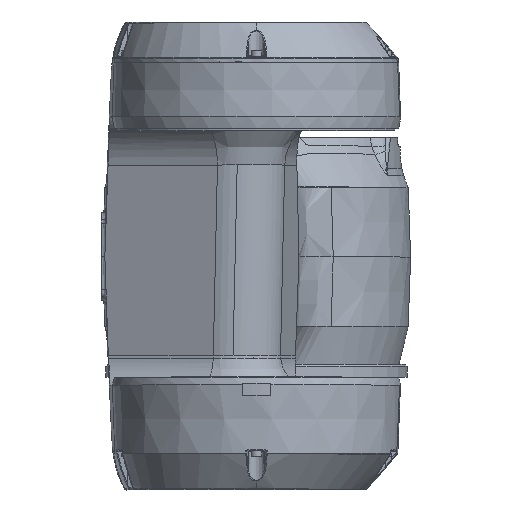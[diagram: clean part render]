
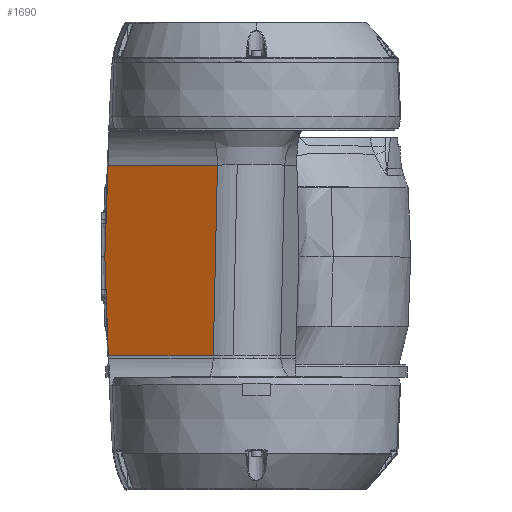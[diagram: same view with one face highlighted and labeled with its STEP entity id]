
A CAD part, top view. The second image highlights one B-rep face of the part: STEP entity #1690.
In plain terms, the highlighted planar face has unit normal (-0.397, -0.035, 0.917).
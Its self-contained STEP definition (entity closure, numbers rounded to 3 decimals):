
#1690 = ADVANCED_FACE ( 'NONE', ( #51065 ), #39456, .F. ) ;
#2576 = LINE ( 'NONE', #8709, #63505 ) ;
#3242 = CARTESIAN_POINT ( 'NONE',  ( -74.34, -50., 572.889 ) ) ;
#4536 = VERTEX_POINT ( 'NONE', #27317 ) ;
#5590 = EDGE_CURVE ( 'NONE', #62438, #45685, #24299, .T. ) ;
#8709 = CARTESIAN_POINT ( 'NONE',  ( -75.024, -50., 572.593 ) ) ;
#10102 = EDGE_CURVE ( 'NONE', #54650, #23020, #17379, .T. ) ;
#12419 = VECTOR ( 'NONE', #38571, 1000. ) ;
#14614 = ORIENTED_EDGE ( 'NONE', *, *, #23880, .F. ) ;
#17379 = LINE ( 'NONE', #50213, #66789 ) ;
#17611 = LINE ( 'NONE', #27556, #35723 ) ;
#18435 = DIRECTION ( 'NONE',  ( -0.035, 0.999, 0.023 ) ) ;
#18674 = ORIENTED_EDGE ( 'NONE', *, *, #30291, .T. ) ;
#19863 = ORIENTED_EDGE ( 'NONE', *, *, #23882, .F. ) ;
#19904 = CARTESIAN_POINT ( 'NONE',  ( 5., 0., 609.1 ) ) ;
#21437 = ORIENTED_EDGE ( 'NONE', *, *, #62968, .T. ) ;
#23020 = VERTEX_POINT ( 'NONE', #64091 ) ;
#23592 = LINE ( 'NONE', #39992, #47412 ) ;
#23880 = EDGE_CURVE ( 'NONE', #4536, #62438, #49118, .T. ) ;
#23882 = EDGE_CURVE ( 'NONE', #48466, #39198, #17611, .T. ) ;
#24299 = LINE ( 'NONE', #45167, #39574 ) ;
#26773 = VERTEX_POINT ( 'NONE', #45138 ) ;
#27317 = CARTESIAN_POINT ( 'NONE',  ( -75.489, -21.969, 573.458 ) ) ;
#27556 = CARTESIAN_POINT ( 'NONE',  ( 5.693, -50., 607.497 ) ) ;
#28082 = VECTOR ( 'NONE', #43983, 1000. ) ;
#28174 = VECTOR ( 'NONE', #67527, 1000. ) ;
#28252 = CARTESIAN_POINT ( 'NONE',  ( -76.115, -3.962, 573.872 ) ) ;
#28910 = VECTOR ( 'NONE', #37991, 1000. ) ;
#29861 = DIRECTION ( 'NONE',  ( 0.397, 0.035, -0.917 ) ) ;
#30291 = EDGE_CURVE ( 'NONE', #23020, #62660, #30917, .T. ) ;
#30917 = LINE ( 'NONE', #46646, #28174 ) ;
#31082 = ORIENTED_EDGE ( 'NONE', *, *, #49141, .T. ) ;
#33793 = LINE ( 'NONE', #53987, #12419 ) ;
#33918 = DIRECTION ( 'NONE',  ( -0.035, 0.999, 0.023 ) ) ;
#34556 = CARTESIAN_POINT ( 'NONE',  ( -74.515, -50., 572.813 ) ) ;
#34669 = ORIENTED_EDGE ( 'NONE', *, *, #10102, .T. ) ;
#35723 = VECTOR ( 'NONE', #49462, 1000. ) ;
#36498 = ORIENTED_EDGE ( 'NONE', *, *, #5590, .F. ) ;
#36637 = LINE ( 'NONE', #57517, #28910 ) ;
#37714 = ORIENTED_EDGE ( 'NONE', *, *, #54476, .F. ) ;
#37991 = DIRECTION ( 'NONE',  ( -0.035, -0.998, -0.053 ) ) ;
#38163 = EDGE_CURVE ( 'NONE', #54650, #48466, #2576, .T. ) ;
#38571 = DIRECTION ( 'NONE',  ( -0.035, -0.998, -0.053 ) ) ;
#39198 = VERTEX_POINT ( 'NONE', #34556 ) ;
#39456 = PLANE ( 'NONE',  #52555 ) ;
#39574 = VECTOR ( 'NONE', #33918, 1000. ) ;
#39992 = CARTESIAN_POINT ( 'NONE',  ( -76.115, -3.962, 573.872 ) ) ;
#40651 = CARTESIAN_POINT ( 'NONE',  ( -21.741, -50., 595.634 ) ) ;
#40786 = DIRECTION ( 'NONE',  ( -0.918, 0., -0.397 ) ) ;
#41804 = ORIENTED_EDGE ( 'NONE', *, *, #38163, .F. ) ;
#43983 = DIRECTION ( 'NONE',  ( -0.035, 0.999, 0.023 ) ) ;
#44722 = CARTESIAN_POINT ( 'NONE',  ( -76.253, 0., 573.964 ) ) ;
#45138 = CARTESIAN_POINT ( 'NONE',  ( -75.66, 16.808, 574.86 ) ) ;
#45167 = CARTESIAN_POINT ( 'NONE',  ( -76.115, -3.962, 573.872 ) ) ;
#45685 = VERTEX_POINT ( 'NONE', #44722 ) ;
#46484 = VECTOR ( 'NONE', #56424, 1000. ) ;
#46646 = CARTESIAN_POINT ( 'NONE',  ( 4.364, 45.872, 610.57 ) ) ;
#47412 = VECTOR ( 'NONE', #18435, 1000. ) ;
#47734 = CARTESIAN_POINT ( 'NONE',  ( -75.671, -16.752, 573.578 ) ) ;
#48466 = VERTEX_POINT ( 'NONE', #3242 ) ;
#49118 = LINE ( 'NONE', #28252, #28082 ) ;
#49141 = EDGE_CURVE ( 'NONE', #26773, #45685, #63234, .T. ) ;
#49462 = DIRECTION ( 'NONE',  ( -0.918, 0., -0.397 ) ) ;
#49687 = VERTEX_POINT ( 'NONE', #49788 ) ;
#49788 = CARTESIAN_POINT ( 'NONE',  ( -75.57, 19.34, 574.995 ) ) ;
#50213 = CARTESIAN_POINT ( 'NONE',  ( -20.618, 1.088, 598.063 ) ) ;
#51065 = FACE_OUTER_BOUND ( 'NONE', #56157, .T. ) ;
#52555 = AXIS2_PLACEMENT_3D ( 'NONE', #19904, #29861, #40786 ) ;
#53987 = CARTESIAN_POINT ( 'NONE',  ( -76.581, -9.299, 573.468 ) ) ;
#54368 = DIRECTION ( 'NONE',  ( 0.022, 0.999, 0.047 ) ) ;
#54476 = EDGE_CURVE ( 'NONE', #39198, #4536, #23592, .T. ) ;
#54650 = VERTEX_POINT ( 'NONE', #40651 ) ;
#56157 = EDGE_LOOP ( 'NONE', ( #41804, #34669, #18674, #61006, #21437, #31082, #36498, #14614, #37714, #19863 ) ) ;
#56424 = DIRECTION ( 'NONE',  ( -0.035, -0.998, -0.053 ) ) ;
#57517 = CARTESIAN_POINT ( 'NONE',  ( -76.581, -9.299, 573.468 ) ) ;
#61006 = ORIENTED_EDGE ( 'NONE', *, *, #62186, .T. ) ;
#61102 = DIRECTION ( 'NONE',  ( -0.918, 0., -0.397 ) ) ;
#62186 = EDGE_CURVE ( 'NONE', #62660, #49687, #33793, .T. ) ;
#62438 = VERTEX_POINT ( 'NONE', #47734 ) ;
#62551 = CARTESIAN_POINT ( 'NONE',  ( -76.581, -9.299, 573.468 ) ) ;
#62660 = VERTEX_POINT ( 'NONE', #63745 ) ;
#62968 = EDGE_CURVE ( 'NONE', #49687, #26773, #36637, .T. ) ;
#63234 = LINE ( 'NONE', #62551, #46484 ) ;
#63505 = VECTOR ( 'NONE', #61102, 1000. ) ;
#63745 = CARTESIAN_POINT ( 'NONE',  ( -74.634, 45.872, 576.409 ) ) ;
#64091 = CARTESIAN_POINT ( 'NONE',  ( -19.634, 45.872, 600.193 ) ) ;
#66789 = VECTOR ( 'NONE', #54368, 1000. ) ;
#67527 = DIRECTION ( 'NONE',  ( -0.918, 0., -0.397 ) ) ;
